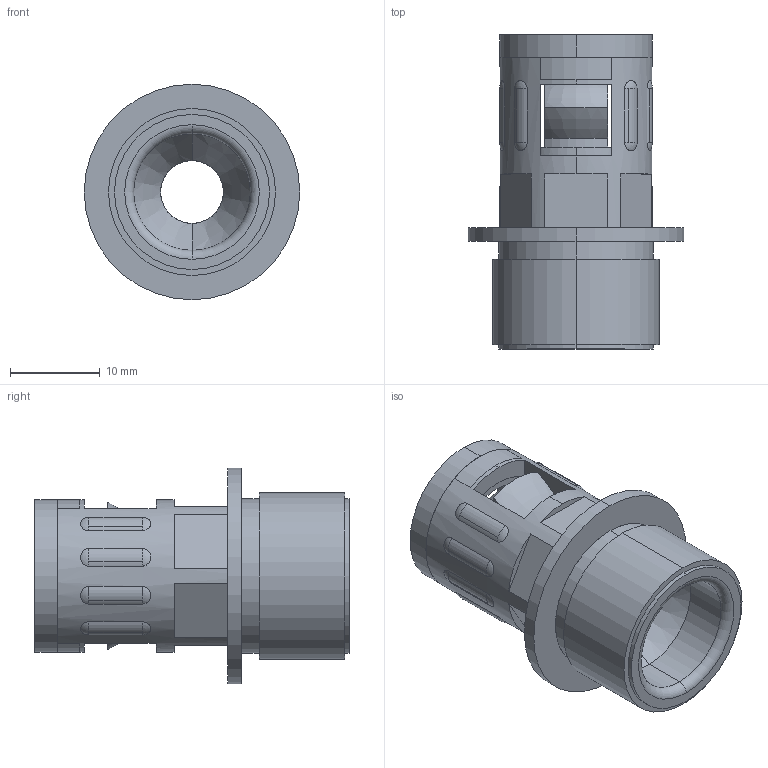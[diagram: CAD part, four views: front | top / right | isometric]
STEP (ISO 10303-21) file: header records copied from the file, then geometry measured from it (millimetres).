
FILE_DESCRIPTION (( 'STEP AP203' ), '1' );
FILE_NAME ('WQG-P11-AD10.0.STEP', '2020-03-12T00:50:35', ( '' ), ( '' ), 'SwSTEP 2.0', 'SolidWorks 2016', '' );
FILE_SCHEMA (( 'CONFIG_CONTROL_DESIGN' ));
Length unit declared in the file: millimetre
Products named in the file (4): GFD-AD10.0; WQG-P11-AD10.0; NSK-AD10.0; WQG-P11-AD10.0-01
Assembly tree (3 placements, depth 2):
  WQG-P11-AD10.0
    WQG-P11-AD10.0-01
    GFD-AD10.0
    NSK-AD10.0
Bounding box: 24 x 35 x 24 mm (x, y, z)
Volume: 4278.3 mm3; surface area: 6355.1 mm2
Topology: 2 solids, 5 shells, 190 faces, 495 edges, 308 vertices
Faces by surface type: plane 57, cone 51, cylinder 46, torus 20, sphere 16
Entity records: 6539 total; most frequent: CARTESIAN_POINT 1583, DIRECTION 1012, ORIENTED_EDGE 922, EDGE_CURVE 463, AXIS2_PLACEMENT_3D 424, VERTEX_POINT 292, CIRCLE 227, EDGE_LOOP 214
